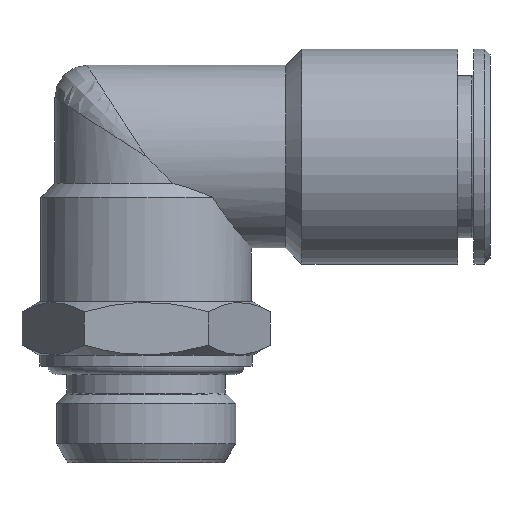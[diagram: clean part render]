
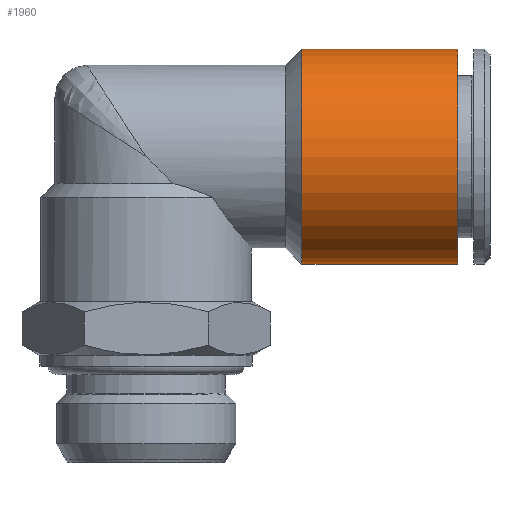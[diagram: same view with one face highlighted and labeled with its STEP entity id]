
A CAD part, front view. The second image highlights one B-rep face of the part: STEP entity #1960.
In plain terms, the highlighted cylindrical face has radius 10 mm (diameter 20 mm), a full revolution.
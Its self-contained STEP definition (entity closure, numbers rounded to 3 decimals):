
#1960=ADVANCED_FACE('', (#1970,#1980), #1990, .T.);
#6380=AXIS2_PLACEMENT_3D('Ax2Pl3d', #6390, #6400, #6410);
#7300=AXIS2_PLACEMENT_3D('Ax2Pl3d', #7310, #7320, #7330);
#7340=AXIS2_PLACEMENT_3D('Ax2Pl3d', #7350, #7360, #7370);
#6390=CARTESIAN_POINT('HicPkt', (43.792,21.386,
21.999));
#20600=CARTESIAN_POINT('', (43.792,21.386,31.999));
#7310=CARTESIAN_POINT('HicPkt', (29.292,21.386,
21.999));
#7350=CARTESIAN_POINT('HicPkt', (29.292,21.386,
21.999));
#20740=CARTESIAN_POINT('', (29.292,21.386,31.999));
#21550=CIRCLE('Circle', #6380, 10.);
#21650=CIRCLE('Circle', #7340, 10.);
#1990=CYLINDRICAL_SURFACE('Zyl', #7300, 10.);
#6400=DIRECTION('Axis', (1.,0.,0.));
#6410=DIRECTION('RefDirection', (0.,0.,-1.));
#7320=DIRECTION('Axis', (1.,0.,0.));
#7330=DIRECTION('RefDirection', (0.,0.,-1.));
#7360=DIRECTION('Axis', (1.,0.,0.));
#7370=DIRECTION('RefDirection', (0.,0.,-1.));
#25740=EDGE_CURVE('', #25750, #25750, #21550, .T.);
#26120=EDGE_CURVE('', #26130, #26130, #21650, .T.);
#29000=EDGE_LOOP('Edge_loop', (#29010));
#29020=EDGE_LOOP('Edge_loop', (#29030));
#1980=FACE_BOUND('', #29020, .T.);
#1970=FACE_OUTER_BOUND('Face_outer_bound', #29000, .T.);
#29010=ORIENTED_EDGE('', *, *, #25740, .F.);
#29030=ORIENTED_EDGE('', *, *, #26120, .T.);
#25750=VERTEX_POINT('', #20600);
#26130=VERTEX_POINT('', #20740);
